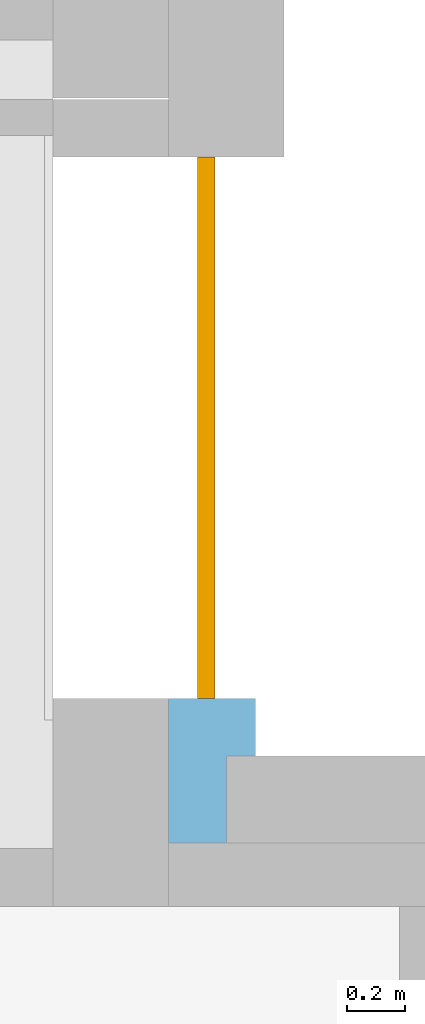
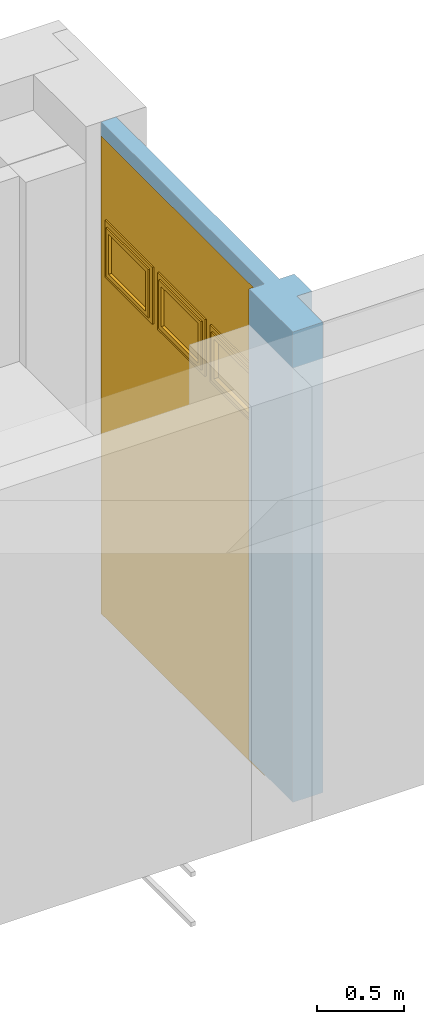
# One storey, part 24 of 27: 1 window, 1 opening, plus 1 element that does not belong to this part.
"""IFC4 building model written with IfcOpenShell, lengths in metres."""

from ifc_helpers import new_model, entity, si_unit, converted_unit, derived_unit, frame, origin, origin_with_axes, place, context, subcontext, project, spatial, polyline, outline, extrude, clip, bounded_halfspace, closed_shell, open_shell, surface_model, source, transform, mapped, material, layer, layer_set, layer_usage, element, fill, save


model = new_model("IFC4")

# Units and contexts
model_context = context("Model", 3, precision=1e-05, world=origin())
body_context = subcontext(model_context, "Body", "Model", "MODEL_VIEW")
ifc_project = project(units=[si_unit("LENGTHUNIT", "METRE"), si_unit("AREAUNIT", "SQUARE_METRE"), si_unit("VOLUMEUNIT", "CUBIC_METRE"), si_unit("MASSUNIT", "GRAM", prefix="KILO"), converted_unit("PLANEANGLEUNIT", "DEGREE", entity("IfcPlaneAngleMeasure", 0.0174532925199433), si_unit("PLANEANGLEUNIT", "RADIAN"), dimensions=[0, 0, 0, 0, 0, 0, 0]), derived_unit("THERMALTRANSMITTANCEUNIT", [(si_unit("POWERUNIT", "WATT"), 1), (si_unit("THERMODYNAMICTEMPERATUREUNIT", "KELVIN"), -1), (si_unit("LENGTHUNIT", "METRE"), -2)]), derived_unit("VOLUMETRICFLOWRATEUNIT", [(si_unit("LENGTHUNIT", "METRE"), 3), (converted_unit("TIMEUNIT", "hour", entity("IfcTimeMeasure", 3600.0), si_unit("TIMEUNIT", "SECOND"), dimensions=[0, 0, 1, 0, 0, 0, 0]), -1), (si_unit("LENGTHUNIT", "METRE"), -1)])], contexts=[model_context])

# Site, building, storey
site_placement = place(None, origin())
site = spatial("IfcSite", under=ifc_project, at=site_placement, Name="3. ASŘ", CompositionType="ELEMENT")
building_placement = place(site_placement, origin())
building = spatial("IfcBuilding", under=site, at=building_placement, Name="Pavilon C", CompositionType="ELEMENT")
storey_placement = place(building_placement, frame((0.0, 0.0, 7.2)))
storey = spatial("IfcBuildingStorey", under=building, at=storey_placement, Name="Půdorys 3.NP", CompositionType="ELEMENT", Elevation=7.2)

# Wall, opening, window
ifc_material = material(Name="ZDIVO Z CDm")
ifc_layer = layer(ifc_material, 0.3)
ifc_layer_set = layer_set([ifc_layer])
ifc_layer_usage = layer_usage(ifc_layer_set, "AXIS2", "POSITIVE", 0.0)
wall_placement = place(storey_placement, frame((48.85, 29.82, -0.1), z_axis=(0.0, 0.0, 1.0), x_axis=(0.0, 1.0, 0.0)))
wall = element("IfcWall", 1, at=wall_placement, inside=storey, material=ifc_layer_usage, Name="ZDIVO Z CDm", context=body_context, shape_type="Clipping", body=[
    clip(clip(extrude(outline(polyline([(0.300000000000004, -0.3), (2.375, -0.3), (2.375, 0.0), (0.0, 0.0), (0.0, -0.2), (0.300000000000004, -0.2), (0.300000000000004, -0.3)])), frame((-0.300000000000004, 0.3, 0.0), z_axis=(0.0, 0.0, 1.0), x_axis=(1.0, 0.0, 0.0)), (0.0, 0.0, 1.0), 3.3), bounded_halfspace(frame((1.13749999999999, 0.25, 3.2), z_axis=(0.0, 0.0, -1.0), x_axis=(0.0, 1.0, 0.0)), True, origin_with_axes(), polyline([(2.07499999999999, 0.2), (2.07499999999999, 0.3), (0.199999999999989, 0.3), (0.199999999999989, 0.2), (2.07499999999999, 0.2)]))), bounded_halfspace(frame((1.13749999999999, 0.05, 3.2), z_axis=(0.0, 0.0, -1.0), x_axis=(0.0, -1.0, 0.0)), True, origin_with_axes(), polyline([(0.199999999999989, 0.1), (0.199999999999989, 0.0), (2.07499999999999, 0.0), (2.07499999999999, 0.1), (0.199999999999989, 0.1)]))),
])
opening_placement = place(wall_placement, frame((0.199999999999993, 0.0, -0.15), z_axis=(0.0, 1.0, 0.0), x_axis=(0.0, 0.0, 1.0)))
opening = element("IfcOpeningElement", 2, at=opening_placement, cuts=wall, Name="Okenní otvor", ObjectType="Opening", context=body_context, shape_type="SweptSolid", body=[
    extrude(outline(polyline([(0.0, 1.875), (3.35, 1.875), (3.35, 0.0), (0.0, 0.0), (0.0, 1.875)])), origin_with_axes(), (0.0, 0.0, 1.0), 0.3),
])
shared_shape = source(origin_with_axes(), body_context, "Body", "SurfaceModel", [
    surface_model("IfcShellBasedSurfaceModel", [(0.0, 0.0800000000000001, 3.35), (0.0, 0.0799999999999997, 3.43148696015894e-18), (0.06, 0.0799999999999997, 3.43148696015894e-18), (0.06, 0.0800000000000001, 3.35), (0.0, 0.0199999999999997, 1.07793677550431e-17), (0.0, 0.0200000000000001, 3.35), (0.06, 0.0200000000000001, 3.35), (0.06, 0.0199999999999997, 1.07793677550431e-17)], [closed_shell([[[0, 1, 2, 3]], [[4, 5, 6, 7]], [[1, 0, 5, 4]], [[2, 1, 4, 7]], [[3, 2, 7, 6]], [[0, 3, 6, 5]]], orient=[[False], [False], [False], [False], [False], [False]])]),
    surface_model("IfcShellBasedSurfaceModel", [(1.815, 0.0800000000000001, 3.35), (1.815, 0.0799999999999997, 3.43148696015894e-18), (1.875, 0.0799999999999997, 3.43148696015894e-18), (1.875, 0.0800000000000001, 3.35), (1.815, 0.0199999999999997, 1.07793677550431e-17), (1.815, 0.0200000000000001, 3.35), (1.875, 0.0200000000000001, 3.35), (1.875, 0.0199999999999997, 1.07793677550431e-17)], [closed_shell([[[0, 1, 2, 3]], [[4, 5, 6, 7]], [[1, 0, 5, 4]], [[2, 1, 4, 7]], [[3, 2, 7, 6]], [[0, 3, 6, 5]]], orient=[[False], [False], [False], [False], [False], [False]])]),
    surface_model("IfcShellBasedSurfaceModel", [(0.06, 0.0799999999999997, 0.06), (0.06, 0.0799999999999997, 3.43148696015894e-18), (1.815, 0.0799999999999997, 3.43148696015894e-18), (1.815, 0.0799999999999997, 0.06), (0.06, 0.0199999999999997, 1.07793677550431e-17), (0.06, 0.0199999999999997, 0.06), (1.815, 0.0199999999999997, 0.06), (1.815, 0.0199999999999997, 1.07793677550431e-17)], [closed_shell([[[0, 1, 2, 3]], [[4, 5, 6, 7]], [[1, 0, 5, 4]], [[2, 1, 4, 7]], [[3, 2, 7, 6]], [[0, 3, 6, 5]]], orient=[[False], [False], [False], [False], [False], [False]])]),
    surface_model("IfcShellBasedSurfaceModel", [(0.06, 0.0800000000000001, 3.35), (0.06, 0.0800000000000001, 3.29), (1.815, 0.0800000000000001, 3.29), (1.815, 0.0800000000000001, 3.35), (0.06, 0.0200000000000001, 3.29), (0.06, 0.0200000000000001, 3.35), (1.815, 0.0200000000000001, 3.35), (1.815, 0.0200000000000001, 3.29)], [closed_shell([[[0, 1, 2, 3]], [[4, 5, 6, 7]], [[1, 0, 5, 4]], [[2, 1, 4, 7]], [[3, 2, 7, 6]], [[0, 3, 6, 5]]], orient=[[False], [False], [False], [False], [False], [False]])]),
    surface_model("IfcShellBasedSurfaceModel", [(0.06, 0.08, 2.4), (0.06, 0.08, 2.34), (1.815, 0.08, 2.34), (1.815, 0.08, 2.4), (0.06, 0.02, 2.34), (0.06, 0.02, 2.4), (1.815, 0.02, 2.4), (1.815, 0.02, 2.34)], [closed_shell([[[0, 1, 2, 3]], [[4, 5, 6, 7]], [[1, 0, 5, 4]], [[2, 1, 4, 7]], [[3, 2, 7, 6]], [[0, 3, 6, 5]]], orient=[[False], [False], [False], [False], [False], [False]])]),
    surface_model("IfcShellBasedSurfaceModel", [(0.302142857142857, 0.08, 2.34), (0.302142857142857, 0.0799999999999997, 0.06), (0.312142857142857, 0.0799999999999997, 0.06), (0.312142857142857, 0.08, 2.34), (0.302142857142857, 0.0199999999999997, 0.06), (0.302142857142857, 0.02, 2.34), (0.312142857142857, 0.02, 2.34), (0.312142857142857, 0.0199999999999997, 0.06)], [closed_shell([[[0, 1, 2, 3]], [[4, 5, 6, 7]], [[1, 0, 5, 4]], [[2, 1, 4, 7]], [[3, 2, 7, 6]], [[0, 3, 6, 5]]], orient=[[False], [False], [False], [False], [False], [False]])]),
    surface_model("IfcShellBasedSurfaceModel", [(0.554285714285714, 0.08, 2.34), (0.554285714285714, 0.0799999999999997, 0.06), (0.564285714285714, 0.0799999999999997, 0.06), (0.564285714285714, 0.08, 2.34), (0.554285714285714, 0.0199999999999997, 0.06), (0.554285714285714, 0.02, 2.34), (0.564285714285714, 0.02, 2.34), (0.564285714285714, 0.0199999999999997, 0.06)], [closed_shell([[[0, 1, 2, 3]], [[4, 5, 6, 7]], [[1, 0, 5, 4]], [[2, 1, 4, 7]], [[3, 2, 7, 6]], [[0, 3, 6, 5]]], orient=[[False], [False], [False], [False], [False], [False]])]),
    surface_model("IfcShellBasedSurfaceModel", [(0.806428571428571, 0.08, 2.34), (0.806428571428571, 0.0799999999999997, 0.06), (0.816428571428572, 0.0799999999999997, 0.06), (0.816428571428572, 0.08, 2.34), (0.806428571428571, 0.0199999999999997, 0.06), (0.806428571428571, 0.02, 2.34), (0.816428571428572, 0.02, 2.34), (0.816428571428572, 0.0199999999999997, 0.06)], [closed_shell([[[0, 1, 2, 3]], [[4, 5, 6, 7]], [[1, 0, 5, 4]], [[2, 1, 4, 7]], [[3, 2, 7, 6]], [[0, 3, 6, 5]]], orient=[[False], [False], [False], [False], [False], [False]])]),
    surface_model("IfcShellBasedSurfaceModel", [(1.05857142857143, 0.08, 2.34), (1.05857142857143, 0.0799999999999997, 0.06), (1.06857142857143, 0.0799999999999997, 0.06), (1.06857142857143, 0.08, 2.34), (1.05857142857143, 0.0199999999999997, 0.06), (1.05857142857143, 0.02, 2.34), (1.06857142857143, 0.02, 2.34), (1.06857142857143, 0.0199999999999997, 0.06)], [closed_shell([[[0, 1, 2, 3]], [[4, 5, 6, 7]], [[1, 0, 5, 4]], [[2, 1, 4, 7]], [[3, 2, 7, 6]], [[0, 3, 6, 5]]], orient=[[False], [False], [False], [False], [False], [False]])]),
    surface_model("IfcShellBasedSurfaceModel", [(1.31071428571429, 0.08, 2.34), (1.31071428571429, 0.0799999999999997, 0.06), (1.32071428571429, 0.0799999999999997, 0.06), (1.32071428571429, 0.08, 2.34), (1.31071428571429, 0.0199999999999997, 0.06), (1.31071428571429, 0.02, 2.34), (1.32071428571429, 0.02, 2.34), (1.32071428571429, 0.0199999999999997, 0.06)], [closed_shell([[[0, 1, 2, 3]], [[4, 5, 6, 7]], [[1, 0, 5, 4]], [[2, 1, 4, 7]], [[3, 2, 7, 6]], [[0, 3, 6, 5]]], orient=[[False], [False], [False], [False], [False], [False]])]),
    surface_model("IfcShellBasedSurfaceModel", [(1.56285714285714, 0.08, 2.34), (1.56285714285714, 0.0799999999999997, 0.06), (1.57285714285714, 0.0799999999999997, 0.06), (1.57285714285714, 0.08, 2.34), (1.56285714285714, 0.0199999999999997, 0.06), (1.56285714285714, 0.02, 2.34), (1.57285714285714, 0.02, 2.34), (1.57285714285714, 0.0199999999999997, 0.06)], [closed_shell([[[0, 1, 2, 3]], [[4, 5, 6, 7]], [[1, 0, 5, 4]], [[2, 1, 4, 7]], [[3, 2, 7, 6]], [[0, 3, 6, 5]]], orient=[[False], [False], [False], [False], [False], [False]])]),
    surface_model("IfcShellBasedSurfaceModel", [(0.06, 0.08, 2.34), (0.06, 0.0799999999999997, 0.06), (1.815, 0.0799999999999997, 0.06), (1.815, 0.08, 2.34), (0.06, 0.0199999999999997, 0.06), (0.06, 0.02, 2.34), (1.815, 0.02, 2.34), (1.815, 0.0199999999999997, 0.06)], [closed_shell([[[0, 1, 2, 3]], [[4, 5, 6, 7]], [[1, 0, 5, 4]], [[2, 1, 4, 7]], [[3, 2, 7, 6]], [[0, 3, 6, 5]]], orient=[[False], [False], [False], [False], [False], [False]])]),
    surface_model("IfcShellBasedSurfaceModel", [(0.06, 0.08, 2.86), (0.06, 0.08, 2.8), (1.815, 0.08, 2.8), (1.815, 0.08, 2.86), (0.06, 0.02, 2.8), (0.06, 0.02, 2.86), (1.815, 0.02, 2.86), (1.815, 0.02, 2.8)], [closed_shell([[[0, 1, 2, 3]], [[4, 5, 6, 7]], [[1, 0, 5, 4]], [[2, 1, 4, 7]], [[3, 2, 7, 6]], [[0, 3, 6, 5]]], orient=[[False], [False], [False], [False], [False], [False]])]),
    surface_model("IfcShellBasedSurfaceModel", [(0.605, 0.08, 2.8), (0.605, 0.08, 2.4), (0.665, 0.08, 2.4), (0.665, 0.08, 2.8), (0.605, 0.02, 2.4), (0.605, 0.02, 2.8), (0.665, 0.02, 2.8), (0.665, 0.02, 2.4)], [closed_shell([[[0, 1, 2, 3]], [[4, 5, 6, 7]], [[1, 0, 5, 4]], [[2, 1, 4, 7]], [[3, 2, 7, 6]], [[0, 3, 6, 5]]], orient=[[False], [False], [False], [False], [False], [False]])]),
    surface_model("IfcShellBasedSurfaceModel", [(1.21, 0.08, 2.8), (1.21, 0.08, 2.4), (1.27, 0.08, 2.4), (1.27, 0.08, 2.8), (1.21, 0.02, 2.4), (1.21, 0.02, 2.8), (1.27, 0.02, 2.8), (1.27, 0.02, 2.4)], [closed_shell([[[0, 1, 2, 3]], [[4, 5, 6, 7]], [[1, 0, 5, 4]], [[2, 1, 4, 7]], [[3, 2, 7, 6]], [[0, 3, 6, 5]]], orient=[[False], [False], [False], [False], [False], [False]])]),
    surface_model("IfcShellBasedSurfaceModel", [(0.302142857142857, 0.0800000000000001, 3.29), (0.302142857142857, 0.08, 2.86), (0.312142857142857, 0.08, 2.86), (0.312142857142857, 0.0800000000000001, 3.29), (0.302142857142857, 0.02, 2.86), (0.302142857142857, 0.0200000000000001, 3.29), (0.312142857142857, 0.0200000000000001, 3.29), (0.312142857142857, 0.02, 2.86)], [closed_shell([[[0, 1, 2, 3]], [[4, 5, 6, 7]], [[1, 0, 5, 4]], [[2, 1, 4, 7]], [[3, 2, 7, 6]], [[0, 3, 6, 5]]], orient=[[False], [False], [False], [False], [False], [False]])]),
    surface_model("IfcShellBasedSurfaceModel", [(0.554285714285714, 0.0800000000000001, 3.29), (0.554285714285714, 0.08, 2.86), (0.564285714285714, 0.08, 2.86), (0.564285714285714, 0.0800000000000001, 3.29), (0.554285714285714, 0.02, 2.86), (0.554285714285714, 0.0200000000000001, 3.29), (0.564285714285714, 0.0200000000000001, 3.29), (0.564285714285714, 0.02, 2.86)], [closed_shell([[[0, 1, 2, 3]], [[4, 5, 6, 7]], [[1, 0, 5, 4]], [[2, 1, 4, 7]], [[3, 2, 7, 6]], [[0, 3, 6, 5]]], orient=[[False], [False], [False], [False], [False], [False]])]),
    surface_model("IfcShellBasedSurfaceModel", [(0.806428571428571, 0.0800000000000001, 3.29), (0.806428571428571, 0.08, 2.86), (0.816428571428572, 0.08, 2.86), (0.816428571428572, 0.0800000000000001, 3.29), (0.806428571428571, 0.02, 2.86), (0.806428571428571, 0.0200000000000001, 3.29), (0.816428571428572, 0.0200000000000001, 3.29), (0.816428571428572, 0.02, 2.86)], [closed_shell([[[0, 1, 2, 3]], [[4, 5, 6, 7]], [[1, 0, 5, 4]], [[2, 1, 4, 7]], [[3, 2, 7, 6]], [[0, 3, 6, 5]]], orient=[[False], [False], [False], [False], [False], [False]])]),
    surface_model("IfcShellBasedSurfaceModel", [(1.05857142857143, 0.0800000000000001, 3.29), (1.05857142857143, 0.08, 2.86), (1.06857142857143, 0.08, 2.86), (1.06857142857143, 0.0800000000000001, 3.29), (1.05857142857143, 0.02, 2.86), (1.05857142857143, 0.0200000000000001, 3.29), (1.06857142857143, 0.0200000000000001, 3.29), (1.06857142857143, 0.02, 2.86)], [closed_shell([[[0, 1, 2, 3]], [[4, 5, 6, 7]], [[1, 0, 5, 4]], [[2, 1, 4, 7]], [[3, 2, 7, 6]], [[0, 3, 6, 5]]], orient=[[False], [False], [False], [False], [False], [False]])]),
    surface_model("IfcShellBasedSurfaceModel", [(1.31071428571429, 0.0800000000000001, 3.29), (1.31071428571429, 0.08, 2.86), (1.32071428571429, 0.08, 2.86), (1.32071428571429, 0.0800000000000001, 3.29), (1.31071428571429, 0.02, 2.86), (1.31071428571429, 0.0200000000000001, 3.29), (1.32071428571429, 0.0200000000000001, 3.29), (1.32071428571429, 0.02, 2.86)], [closed_shell([[[0, 1, 2, 3]], [[4, 5, 6, 7]], [[1, 0, 5, 4]], [[2, 1, 4, 7]], [[3, 2, 7, 6]], [[0, 3, 6, 5]]], orient=[[False], [False], [False], [False], [False], [False]])]),
    surface_model("IfcShellBasedSurfaceModel", [(1.56285714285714, 0.0800000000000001, 3.29), (1.56285714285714, 0.08, 2.86), (1.57285714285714, 0.08, 2.86), (1.57285714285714, 0.0800000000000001, 3.29), (1.56285714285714, 0.02, 2.86), (1.56285714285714, 0.0200000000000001, 3.29), (1.57285714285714, 0.0200000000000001, 3.29), (1.57285714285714, 0.02, 2.86)], [closed_shell([[[0, 1, 2, 3]], [[4, 5, 6, 7]], [[1, 0, 5, 4]], [[2, 1, 4, 7]], [[3, 2, 7, 6]], [[0, 3, 6, 5]]], orient=[[False], [False], [False], [False], [False], [False]])]),
    surface_model("IfcShellBasedSurfaceModel", [(0.06, 0.0800000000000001, 3.29), (0.06, 0.08, 2.86), (1.815, 0.08, 2.86), (1.815, 0.0800000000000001, 3.29), (0.06, 0.02, 2.86), (0.06, 0.0200000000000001, 3.29), (1.815, 0.0200000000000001, 3.29), (1.815, 0.02, 2.86)], [closed_shell([[[0, 1, 2, 3]], [[4, 5, 6, 7]], [[1, 0, 5, 4]], [[2, 1, 4, 7]], [[3, 2, 7, 6]], [[0, 3, 6, 5]]], orient=[[False], [False], [False], [False], [False], [False]])]),
    surface_model("IfcShellBasedSurfaceModel", [(0.06, 0.09, 2.8), (0.06, 0.09, 2.4), (0.09, 0.09, 2.4), (0.09, 0.09, 2.8), (0.06, 0.00999999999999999, 2.4), (0.06, 0.01, 2.8), (0.09, 0.01, 2.8), (0.09, 0.00999999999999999, 2.4)], [closed_shell([[[0, 1, 2, 3]], [[4, 5, 6, 7]], [[1, 0, 5, 4]], [[2, 1, 4, 7]], [[3, 2, 7, 6]], [[0, 3, 6, 5]]], orient=[[False], [False], [False], [False], [False], [False]])]),
    surface_model("IfcShellBasedSurfaceModel", [(0.575, 0.09, 2.8), (0.575, 0.09, 2.4), (0.605, 0.09, 2.4), (0.605, 0.09, 2.8), (0.575, 0.00999999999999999, 2.4), (0.575, 0.01, 2.8), (0.605, 0.01, 2.8), (0.605, 0.00999999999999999, 2.4)], [closed_shell([[[0, 1, 2, 3]], [[4, 5, 6, 7]], [[1, 0, 5, 4]], [[2, 1, 4, 7]], [[3, 2, 7, 6]], [[0, 3, 6, 5]]], orient=[[False], [False], [False], [False], [False], [False]])]),
    surface_model("IfcShellBasedSurfaceModel", [(0.09, 0.09, 2.43), (0.09, 0.09, 2.4), (0.575, 0.09, 2.4), (0.575, 0.09, 2.43), (0.09, 0.00999999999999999, 2.4), (0.09, 0.00999999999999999, 2.43), (0.575, 0.00999999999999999, 2.43), (0.575, 0.00999999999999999, 2.4)], [closed_shell([[[0, 1, 2, 3]], [[4, 5, 6, 7]], [[1, 0, 5, 4]], [[2, 1, 4, 7]], [[3, 2, 7, 6]], [[0, 3, 6, 5]]], orient=[[False], [False], [False], [False], [False], [False]])]),
    surface_model("IfcShellBasedSurfaceModel", [(0.09, 0.09, 2.8), (0.09, 0.09, 2.77), (0.575, 0.09, 2.77), (0.575, 0.09, 2.8), (0.09, 0.01, 2.77), (0.09, 0.01, 2.8), (0.575, 0.01, 2.8), (0.575, 0.01, 2.77)], [closed_shell([[[0, 1, 2, 3]], [[4, 5, 6, 7]], [[1, 0, 5, 4]], [[2, 1, 4, 7]], [[3, 2, 7, 6]], [[0, 3, 6, 5]]], orient=[[False], [False], [False], [False], [False], [False]])]),
    surface_model("IfcShellBasedSurfaceModel", [(0.665, 0.09, 2.8), (0.665, 0.09, 2.4), (0.695, 0.09, 2.4), (0.695, 0.09, 2.8), (0.665, 0.00999999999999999, 2.4), (0.665, 0.01, 2.8), (0.695, 0.01, 2.8), (0.695, 0.00999999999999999, 2.4)], [closed_shell([[[0, 1, 2, 3]], [[4, 5, 6, 7]], [[1, 0, 5, 4]], [[2, 1, 4, 7]], [[3, 2, 7, 6]], [[0, 3, 6, 5]]], orient=[[False], [False], [False], [False], [False], [False]])]),
    surface_model("IfcShellBasedSurfaceModel", [(1.18, 0.09, 2.8), (1.18, 0.09, 2.4), (1.21, 0.09, 2.4), (1.21, 0.09, 2.8), (1.18, 0.00999999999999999, 2.4), (1.18, 0.01, 2.8), (1.21, 0.01, 2.8), (1.21, 0.00999999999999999, 2.4)], [closed_shell([[[0, 1, 2, 3]], [[4, 5, 6, 7]], [[1, 0, 5, 4]], [[2, 1, 4, 7]], [[3, 2, 7, 6]], [[0, 3, 6, 5]]], orient=[[False], [False], [False], [False], [False], [False]])]),
    surface_model("IfcShellBasedSurfaceModel", [(0.695, 0.09, 2.43), (0.695, 0.09, 2.4), (1.18, 0.09, 2.4), (1.18, 0.09, 2.43), (0.695, 0.00999999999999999, 2.4), (0.695, 0.00999999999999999, 2.43), (1.18, 0.00999999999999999, 2.43), (1.18, 0.00999999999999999, 2.4)], [closed_shell([[[0, 1, 2, 3]], [[4, 5, 6, 7]], [[1, 0, 5, 4]], [[2, 1, 4, 7]], [[3, 2, 7, 6]], [[0, 3, 6, 5]]], orient=[[False], [False], [False], [False], [False], [False]])]),
    surface_model("IfcShellBasedSurfaceModel", [(0.695, 0.09, 2.8), (0.695, 0.09, 2.77), (1.18, 0.09, 2.77), (1.18, 0.09, 2.8), (0.695, 0.01, 2.77), (0.695, 0.01, 2.8), (1.18, 0.01, 2.8), (1.18, 0.01, 2.77)], [closed_shell([[[0, 1, 2, 3]], [[4, 5, 6, 7]], [[1, 0, 5, 4]], [[2, 1, 4, 7]], [[3, 2, 7, 6]], [[0, 3, 6, 5]]], orient=[[False], [False], [False], [False], [False], [False]])]),
    surface_model("IfcShellBasedSurfaceModel", [(1.27, 0.09, 2.8), (1.27, 0.09, 2.4), (1.3, 0.09, 2.4), (1.3, 0.09, 2.8), (1.27, 0.00999999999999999, 2.4), (1.27, 0.01, 2.8), (1.3, 0.01, 2.8), (1.3, 0.00999999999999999, 2.4)], [closed_shell([[[0, 1, 2, 3]], [[4, 5, 6, 7]], [[1, 0, 5, 4]], [[2, 1, 4, 7]], [[3, 2, 7, 6]], [[0, 3, 6, 5]]], orient=[[False], [False], [False], [False], [False], [False]])]),
    surface_model("IfcShellBasedSurfaceModel", [(1.785, 0.09, 2.8), (1.785, 0.09, 2.4), (1.815, 0.09, 2.4), (1.815, 0.09, 2.8), (1.785, 0.00999999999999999, 2.4), (1.785, 0.01, 2.8), (1.815, 0.01, 2.8), (1.815, 0.00999999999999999, 2.4)], [closed_shell([[[0, 1, 2, 3]], [[4, 5, 6, 7]], [[1, 0, 5, 4]], [[2, 1, 4, 7]], [[3, 2, 7, 6]], [[0, 3, 6, 5]]], orient=[[False], [False], [False], [False], [False], [False]])]),
    surface_model("IfcShellBasedSurfaceModel", [(1.3, 0.09, 2.43), (1.3, 0.09, 2.4), (1.785, 0.09, 2.4), (1.785, 0.09, 2.43), (1.3, 0.00999999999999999, 2.4), (1.3, 0.00999999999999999, 2.43), (1.785, 0.00999999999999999, 2.43), (1.785, 0.00999999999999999, 2.4)], [closed_shell([[[0, 1, 2, 3]], [[4, 5, 6, 7]], [[1, 0, 5, 4]], [[2, 1, 4, 7]], [[3, 2, 7, 6]], [[0, 3, 6, 5]]], orient=[[False], [False], [False], [False], [False], [False]])]),
    surface_model("IfcShellBasedSurfaceModel", [(1.3, 0.09, 2.8), (1.3, 0.09, 2.77), (1.785, 0.09, 2.77), (1.785, 0.09, 2.8), (1.3, 0.01, 2.77), (1.3, 0.01, 2.8), (1.785, 0.01, 2.8), (1.785, 0.01, 2.77)], [closed_shell([[[0, 1, 2, 3]], [[4, 5, 6, 7]], [[1, 0, 5, 4]], [[2, 1, 4, 7]], [[3, 2, 7, 6]], [[0, 3, 6, 5]]], orient=[[False], [False], [False], [False], [False], [False]])]),
    surface_model("IfcShellBasedSurfaceModel", [(0.09, 0.06, 2.77), (0.09, 0.06, 2.43), (0.12, 0.06, 2.43), (0.12, 0.06, 2.77), (0.09, 0.0, 2.43), (0.09, 4.2632564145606e-17, 2.77), (0.12, 4.2632564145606e-17, 2.77), (0.12, 0.0, 2.43)], [closed_shell([[[0, 1, 2, 3]], [[4, 5, 6, 7]], [[1, 0, 5, 4]], [[2, 1, 4, 7]], [[3, 2, 7, 6]], [[0, 3, 6, 5]]], orient=[[False], [False], [False], [False], [False], [False]])]),
    surface_model("IfcShellBasedSurfaceModel", [(0.545, 0.06, 2.77), (0.545, 0.06, 2.43), (0.575, 0.06, 2.43), (0.575, 0.06, 2.77), (0.545, 0.0, 2.43), (0.545, 4.2632564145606e-17, 2.77), (0.575, 4.2632564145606e-17, 2.77), (0.575, 0.0, 2.43)], [closed_shell([[[0, 1, 2, 3]], [[4, 5, 6, 7]], [[1, 0, 5, 4]], [[2, 1, 4, 7]], [[3, 2, 7, 6]], [[0, 3, 6, 5]]], orient=[[False], [False], [False], [False], [False], [False]])]),
    surface_model("IfcShellBasedSurfaceModel", [(0.12, 0.06, 2.46), (0.12, 0.06, 2.43), (0.545, 0.06, 2.43), (0.545, 0.06, 2.46), (0.12, 0.0, 2.43), (0.12, 7.105427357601e-18, 2.46), (0.545, 7.105427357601e-18, 2.46), (0.545, 0.0, 2.43)], [closed_shell([[[0, 1, 2, 3]], [[4, 5, 6, 7]], [[1, 0, 5, 4]], [[2, 1, 4, 7]], [[3, 2, 7, 6]], [[0, 3, 6, 5]]], orient=[[False], [False], [False], [False], [False], [False]])]),
    surface_model("IfcShellBasedSurfaceModel", [(0.12, 0.06, 2.77), (0.12, 0.06, 2.74), (0.545, 0.06, 2.74), (0.545, 0.06, 2.77), (0.12, 3.5527136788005e-17, 2.74), (0.12, 4.2632564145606e-17, 2.77), (0.545, 4.2632564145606e-17, 2.77), (0.545, 3.5527136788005e-17, 2.74)], [closed_shell([[[0, 1, 2, 3]], [[4, 5, 6, 7]], [[1, 0, 5, 4]], [[2, 1, 4, 7]], [[3, 2, 7, 6]], [[0, 3, 6, 5]]], orient=[[False], [False], [False], [False], [False], [False]])]),
    surface_model("IfcShellBasedSurfaceModel", [(0.12, 0.04, 2.74), (0.12, 0.04, 2.46), (0.545, 0.04, 2.46), (0.545, 0.04, 2.74), (0.12, 0.02, 2.46), (0.12, 0.02, 2.74), (0.545, 0.02, 2.74), (0.545, 0.02, 2.46)], [closed_shell([[[0, 1, 2, 3]], [[4, 5, 6, 7]], [[1, 0, 5, 4]], [[2, 1, 4, 7]], [[3, 2, 7, 6]], [[0, 3, 6, 5]]], orient=[[False], [False], [False], [False], [False], [False]])]),
    surface_model("IfcShellBasedSurfaceModel", [(0.695, 0.06, 2.77), (0.695, 0.06, 2.43), (0.725, 0.06, 2.43), (0.725, 0.06, 2.77), (0.695, 0.0, 2.43), (0.695, 4.2632564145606e-17, 2.77), (0.725, 4.2632564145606e-17, 2.77), (0.725, 0.0, 2.43)], [closed_shell([[[0, 1, 2, 3]], [[4, 5, 6, 7]], [[1, 0, 5, 4]], [[2, 1, 4, 7]], [[3, 2, 7, 6]], [[0, 3, 6, 5]]], orient=[[False], [False], [False], [False], [False], [False]])]),
    surface_model("IfcShellBasedSurfaceModel", [(1.15, 0.06, 2.77), (1.15, 0.06, 2.43), (1.18, 0.06, 2.43), (1.18, 0.06, 2.77), (1.15, 0.0, 2.43), (1.15, 4.2632564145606e-17, 2.77), (1.18, 4.2632564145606e-17, 2.77), (1.18, 0.0, 2.43)], [closed_shell([[[0, 1, 2, 3]], [[4, 5, 6, 7]], [[1, 0, 5, 4]], [[2, 1, 4, 7]], [[3, 2, 7, 6]], [[0, 3, 6, 5]]], orient=[[False], [False], [False], [False], [False], [False]])]),
    surface_model("IfcShellBasedSurfaceModel", [(0.725, 0.06, 2.46), (0.725, 0.06, 2.43), (1.15, 0.06, 2.43), (1.15, 0.06, 2.46), (0.725, 0.0, 2.43), (0.725, 7.105427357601e-18, 2.46), (1.15, 7.105427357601e-18, 2.46), (1.15, 0.0, 2.43)], [closed_shell([[[0, 1, 2, 3]], [[4, 5, 6, 7]], [[1, 0, 5, 4]], [[2, 1, 4, 7]], [[3, 2, 7, 6]], [[0, 3, 6, 5]]], orient=[[False], [False], [False], [False], [False], [False]])]),
    surface_model("IfcShellBasedSurfaceModel", [(0.725, 0.06, 2.77), (0.725, 0.06, 2.74), (1.15, 0.06, 2.74), (1.15, 0.06, 2.77), (0.725, 3.5527136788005e-17, 2.74), (0.725, 4.2632564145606e-17, 2.77), (1.15, 4.2632564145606e-17, 2.77), (1.15, 3.5527136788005e-17, 2.74)], [closed_shell([[[0, 1, 2, 3]], [[4, 5, 6, 7]], [[1, 0, 5, 4]], [[2, 1, 4, 7]], [[3, 2, 7, 6]], [[0, 3, 6, 5]]], orient=[[False], [False], [False], [False], [False], [False]])]),
    surface_model("IfcShellBasedSurfaceModel", [(0.725, 0.04, 2.74), (0.725, 0.04, 2.46), (1.15, 0.04, 2.46), (1.15, 0.04, 2.74), (0.725, 0.02, 2.46), (0.725, 0.02, 2.74), (1.15, 0.02, 2.74), (1.15, 0.02, 2.46)], [closed_shell([[[0, 1, 2, 3]], [[4, 5, 6, 7]], [[1, 0, 5, 4]], [[2, 1, 4, 7]], [[3, 2, 7, 6]], [[0, 3, 6, 5]]], orient=[[False], [False], [False], [False], [False], [False]])]),
    surface_model("IfcShellBasedSurfaceModel", [(1.3, 0.06, 2.77), (1.3, 0.06, 2.43), (1.33, 0.06, 2.43), (1.33, 0.06, 2.77), (1.3, 0.0, 2.43), (1.3, 4.2632564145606e-17, 2.77), (1.33, 4.2632564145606e-17, 2.77), (1.33, 0.0, 2.43)], [closed_shell([[[0, 1, 2, 3]], [[4, 5, 6, 7]], [[1, 0, 5, 4]], [[2, 1, 4, 7]], [[3, 2, 7, 6]], [[0, 3, 6, 5]]], orient=[[False], [False], [False], [False], [False], [False]])]),
    surface_model("IfcShellBasedSurfaceModel", [(1.755, 0.06, 2.77), (1.755, 0.06, 2.43), (1.785, 0.06, 2.43), (1.785, 0.06, 2.77), (1.755, 0.0, 2.43), (1.755, 4.2632564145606e-17, 2.77), (1.785, 4.2632564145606e-17, 2.77), (1.785, 0.0, 2.43)], [closed_shell([[[0, 1, 2, 3]], [[4, 5, 6, 7]], [[1, 0, 5, 4]], [[2, 1, 4, 7]], [[3, 2, 7, 6]], [[0, 3, 6, 5]]], orient=[[False], [False], [False], [False], [False], [False]])]),
    surface_model("IfcShellBasedSurfaceModel", [(1.33, 0.06, 2.46), (1.33, 0.06, 2.43), (1.755, 0.06, 2.43), (1.755, 0.06, 2.46), (1.33, 0.0, 2.43), (1.33, 7.105427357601e-18, 2.46), (1.755, 7.105427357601e-18, 2.46), (1.755, 0.0, 2.43)], [closed_shell([[[0, 1, 2, 3]], [[4, 5, 6, 7]], [[1, 0, 5, 4]], [[2, 1, 4, 7]], [[3, 2, 7, 6]], [[0, 3, 6, 5]]], orient=[[False], [False], [False], [False], [False], [False]])]),
    surface_model("IfcShellBasedSurfaceModel", [(1.33, 0.06, 2.77), (1.33, 0.06, 2.74), (1.755, 0.06, 2.74), (1.755, 0.06, 2.77), (1.33, 3.5527136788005e-17, 2.74), (1.33, 4.2632564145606e-17, 2.77), (1.755, 4.2632564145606e-17, 2.77), (1.755, 3.5527136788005e-17, 2.74)], [closed_shell([[[0, 1, 2, 3]], [[4, 5, 6, 7]], [[1, 0, 5, 4]], [[2, 1, 4, 7]], [[3, 2, 7, 6]], [[0, 3, 6, 5]]], orient=[[False], [False], [False], [False], [False], [False]])]),
    surface_model("IfcShellBasedSurfaceModel", [(1.33, 0.03, 2.46), (1.755, 0.03, 2.46), (1.755, 0.03, 2.74), (1.33, 0.03, 2.74)], [open_shell([[[0, 1, 2, 3]]], orient=[[False]])]),
])
window_placement = place(opening_placement, frame((0.0, 1.87499999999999, 0.220000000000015), z_axis=(1.0, 0.0, 0.0), x_axis=(0.0, -1.0, 2.44929359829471e-16)))
window = element("IfcWindow", 3, at=window_placement, inside=storey, Name="O06", OverallHeight=3.35, OverallWidth=1.875, PartitioningType="USERDEFINED", PredefinedType="WINDOW", context=body_context, shape_type="MappedRepresentation", body=[
    mapped(shared_shape, transform((0.0, 0.0, 0.0), x_axis=(1.0, 0.0, 0.0), y_axis=(0.0, 1.0, 0.0), z_axis=(0.0, 0.0, 1.0), scale=1.0)),
])
fill(opening, window)

save(model, "model.ifc")
